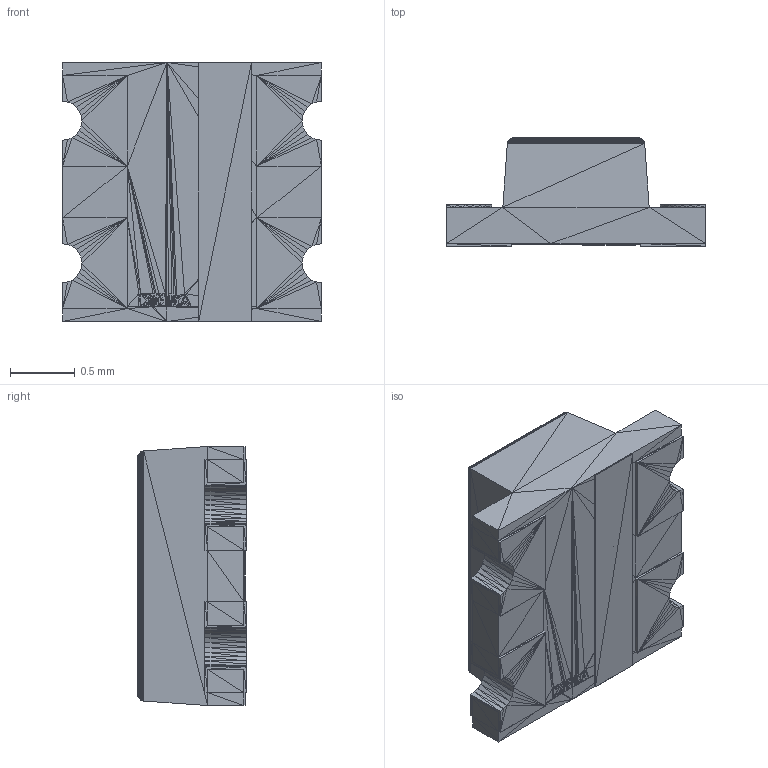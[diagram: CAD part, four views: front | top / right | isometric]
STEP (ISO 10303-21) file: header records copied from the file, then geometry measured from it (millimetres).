
FILE_DESCRIPTION(('FreeCAD Model'),'2;1');
FILE_NAME('Open CASCADE Shape Model','2023-12-12T01:41:17',(''),(''), 'Open CASCADE STEP processor 7.6','FreeCAD','Unknown');
FILE_SCHEMA(('AUTOMOTIVE_DESIGN { 1 0 10303 214 1 1 1 1 }'));
Length unit declared in the file: millimetre
Products named in the file (1): Mesh001
Bounding box: 2 x 0.84 x 2 mm (x, y, z)
Surface area: 15.2 mm2 (no closed solid volume)
Topology: 0 solids, 910 shells, 910 faces, 2730 edges, 2730 vertices
Faces by surface type: plane 910
Entity records: 39149 total; most frequent: CARTESIAN_POINT 6371, DIRECTION 4552, ORIENTED_EDGE 2730, EDGE_CURVE 2730, VERTEX_POINT 2730, LINE 2730, VECTOR 2730, AXIS2_PLACEMENT_3D 911
